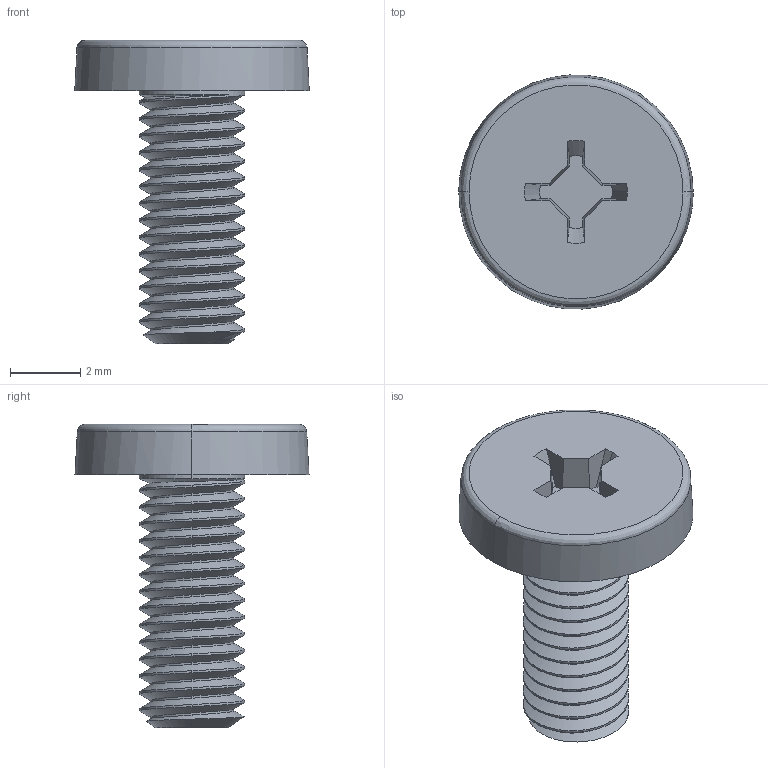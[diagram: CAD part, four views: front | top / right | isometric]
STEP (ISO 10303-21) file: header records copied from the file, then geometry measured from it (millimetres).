
FILE_DESCRIPTION(/* description */ (''),/* implementation_level */ '2;1');
FILE_NAME(/* name */ 'PANCAK~3',/* time_stamp */ '2020-01-25T13:39:04+01:00',/* author */ (''),/* organization */ (''),/* preprocessor_version */ 'ST-DEVELOPER v16.5',/* originating_system */ '',/* authorisation */ '');
FILE_SCHEMA (('AUTOMOTIVE_DESIGN'));
Length unit declared in the file: millimetre
Products named in the file (1): Document
Bounding box: 6.67 x 6.66 x 8.63 mm (x, y, z)
Volume: 87.1 mm3; surface area: 206.6 mm2
Topology: 1 solids, 1 shells, 92 faces, 261 edges, 173 vertices
Faces by surface type: bspline 76, plane 16
Entity records: 5428 total; most frequent: CARTESIAN_POINT 3996, ORIENTED_EDGE 522, EDGE_CURVE 261, VERTEX_POINT 173, B_SPLINE_CURVE_WITH_KNOTS 114, EDGE_LOOP 94, ADVANCED_FACE 92, FACE_OUTER_BOUND 92
